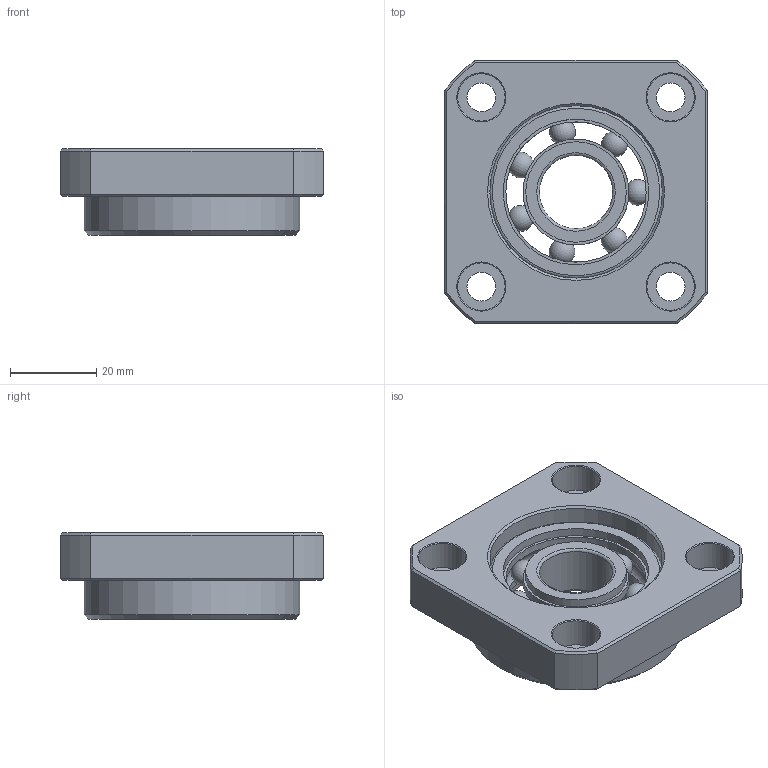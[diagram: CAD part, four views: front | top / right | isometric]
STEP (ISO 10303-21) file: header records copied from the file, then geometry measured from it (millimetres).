
FILE_DESCRIPTION(/* description */ (''),/* implementation_level */ '2;1');
FILE_NAME(/* name */ 'D:\owncloud\Kamp und Kötter\Artikel\_CAD-Dateien\Lagerbloecke\FKFF17\Flansch-Loslager KUS25.stp',/* time_stamp */ '2019-02-17T18:37:23+01:00',/* author */ ('Buskamp'),/* organization */ (''),/* preprocessor_version */ 'ST-DEVELOPER v17',/* originating_system */ 'Autodesk Inventor 2019',/* authorisation */ '');
FILE_SCHEMA (('AUTOMOTIVE_DESIGN { 1 0 10303 214 3 1 1 }'));
Length unit declared in the file: millimetre
Products named in the file (3): Loslager; Loslager_1; Bearing 6203-2Z GB/T 276-94
Assembly tree (2 placements, depth 2):
  Loslager
    Loslager_1
    Bearing 6203-2Z GB/T 276-94
Bounding box: 61 x 61 x 20 mm (x, y, z)
Volume: 36868.3 mm3; surface area: 18277.3 mm2
Topology: 10 solids, 10 shells, 95 faces, 241 edges, 161 vertices
Faces by surface type: plane 27, cylinder 24, cone 19, torus 18, sphere 7
Full cylindrical faces by diameter (mm): 6.7 x4, 11 x4, 17 x1, 23.273 x2, 24.498 x2, 32.502 x2, 33.727 x2, 40 x2, 50 x1
Entity records: 3231 total; most frequent: DIRECTION 595, CARTESIAN_POINT 578, ORIENTED_EDGE 482, AXIS2_PLACEMENT_3D 270, EDGE_CURVE 241, VERTEX_POINT 189, CIRCLE 170, EDGE_LOOP 132
